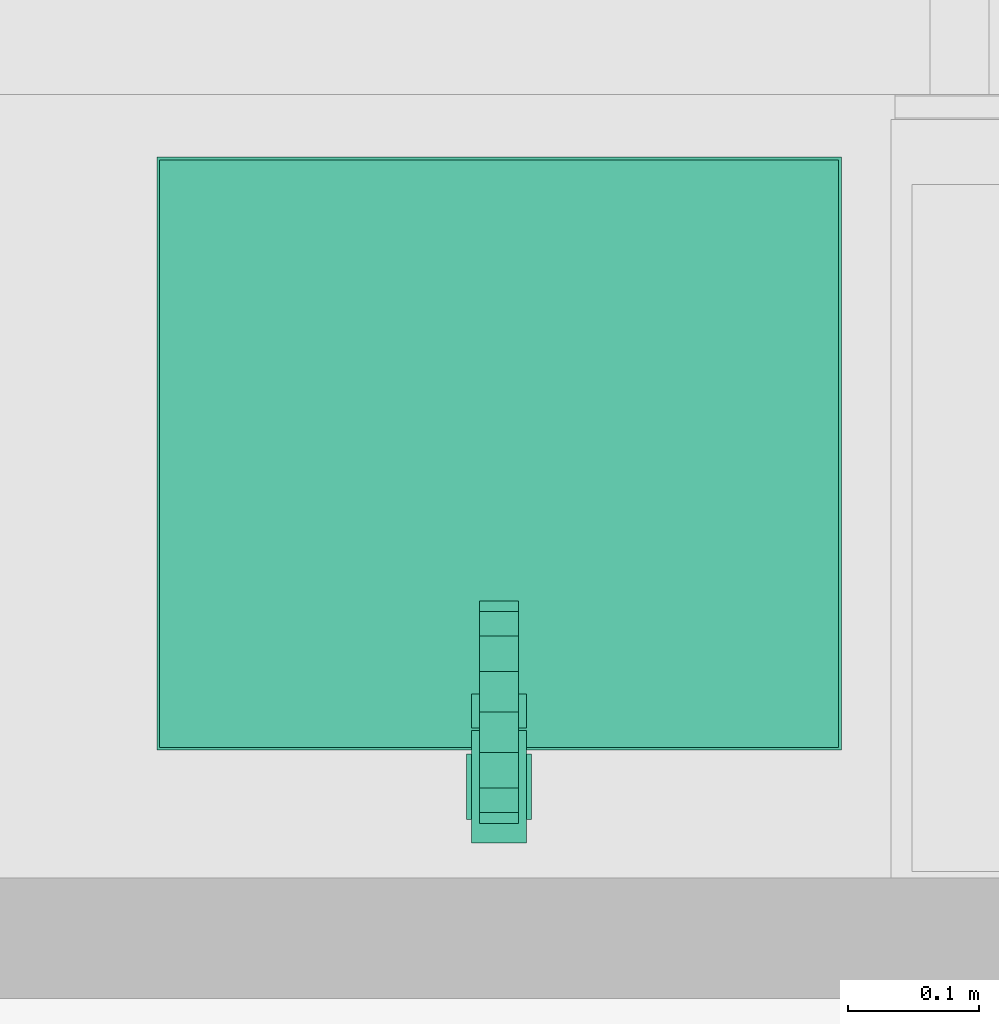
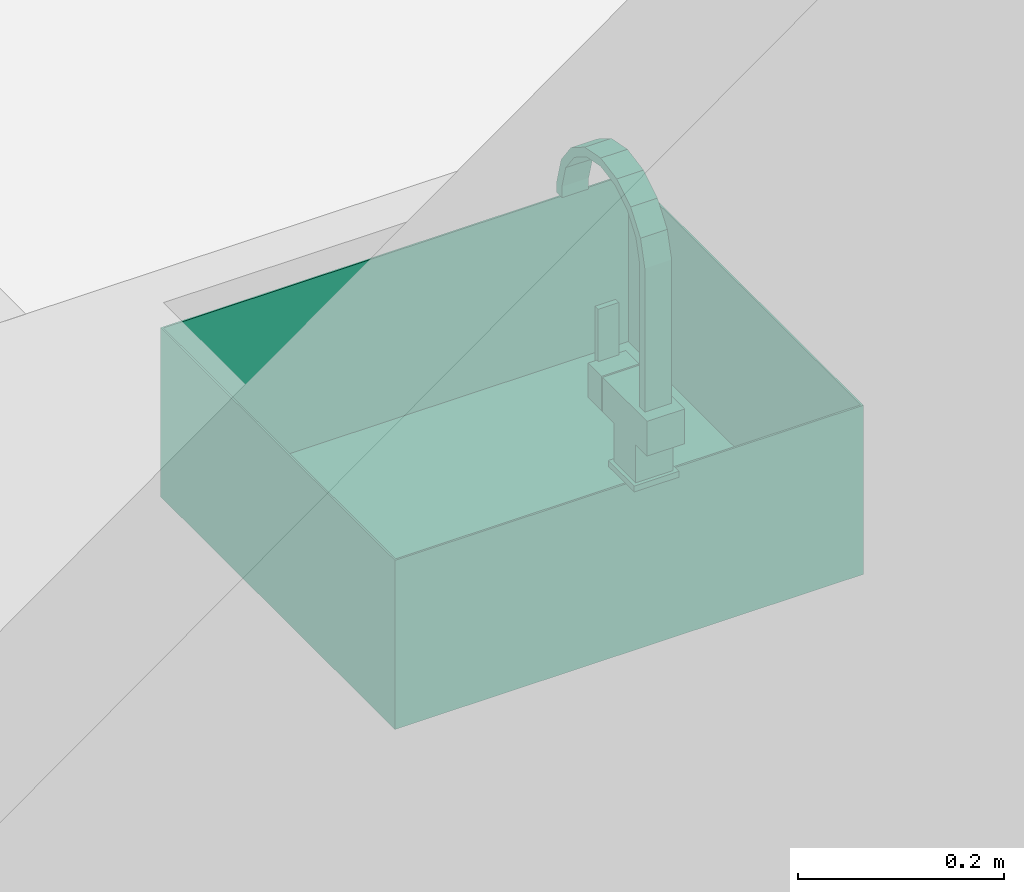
# One storey, part 29 of 57: 2 flow terminals.
"""IFC2X3 building model written with IfcOpenShell, lengths in millimetres."""

from ifc_helpers import new_model, entity, si_unit, converted_unit, direction, frame, origin, place, context, subcontext, project, spatial, faceted_brep, source, transform, mapped, material, type_object, type_shapes, element, save


model = new_model("IFC2X3")

# Units and contexts
model_context = context("Model", 3, precision=0.01, world=origin(), true_north=direction((6.123233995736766e-17, 1.0)))
plan_context = context("Plan", 3, precision=0.01, world=origin(), true_north=direction((6.123233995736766e-17, 1.0)))
body_context = subcontext(model_context, "Body", "Model", "MODEL_VIEW")
ifc_project = project(units=[si_unit("LENGTHUNIT", "METRE", prefix="MILLI"), converted_unit("PLANEANGLEUNIT", "DEGREE", entity("IfcPlaneAngleMeasure", 0.017453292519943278), si_unit("PLANEANGLEUNIT", "RADIAN"), dimensions=[0, 0, 0, 0, 0, 0, 0]), si_unit("AREAUNIT", "SQUARE_METRE")], contexts=[model_context, plan_context])

# Site, building, storey, space
site_placement = place(None, origin())
site = spatial("IfcSite", under=ifc_project, at=site_placement, Name="Default", CompositionType="ELEMENT")
building_placement = place(site_placement, origin())
building = spatial("IfcBuilding", under=site, at=building_placement, CompositionType="ELEMENT")
storey_placement = place(building_placement, frame((0.0, 0.0, 12811.000000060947)))
storey = spatial("IfcBuildingStorey", under=building, at=storey_placement, Name="5K", CompositionType="ELEMENT", Elevation=12811.000000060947)
space_placement = place(storey_placement, origin())
space = spatial("IfcSpace", under=storey, at=space_placement, Name="5-12.4", CompositionType="ELEMENT", InteriorOrExteriorSpace="INTERNAL")

# Flow terminals
ifc_material = material(Name="<Unnamed>")
distribution_element_type_1 = type_object("IfcDistributionElementType", Name="HR_Plumbing-fixtures_Sink_Generic_Kitchen_v1:Default", material=ifc_material)
shared_shape_1 = source(origin(), body_context, "Body", "Brep", [
    faceted_brep([(260.0, -50.0, -3825.0), (260.0, -500.0, -3825.0), (-260.0, -500.0, -3825.0), (-260.0, -50.0, -3825.0), (262.0, -48.0, -3825.0), (-262.0, -48.0, -3825.0), (-262.0, -502.0, -3825.0), (262.0, -502.0, -3825.0), (262.0, -48.0, -4025.0), (262.0, -502.0, -4025.0), (-262.0, -502.0, -4025.0), (-262.0, -48.0, -4025.0), (260.0, -50.0, -4023.0), (260.0, -500.0, -4023.0), (-260.0, -500.0, -4023.0), (-260.0, -50.0, -4023.0)], [[[0, 1, 2, 3], [4, 5, 6, 7]], [[8, 9, 10, 11]], [[1, 0, 12, 13]], [[2, 1, 13, 14]], [[3, 2, 14, 15]], [[0, 3, 15, 12]], [[5, 4, 8, 11]], [[6, 5, 11, 10]], [[7, 6, 10, 9]], [[4, 7, 9, 8]], [[13, 12, 15, 14]]], outer=[[False, True], [True], [True], [True], [True], [True], [True], [True], [True], [True], [True]]),
])
type_shapes(distribution_element_type_1, [shared_shape_1])
flow_terminal_1_placement = place(space_placement, frame((9435.0, 9810.0, 4695.0)))
element("IfcFlowTerminal", 1, at=flow_terminal_1_placement, inside=space, type_object=distribution_element_type_1, material=ifc_material, Name="HR_Plumbing-fixtures_Sink_Generic_Kitchen_v1:Default", ObjectType="HR_Plumbing-fixtures_Sink_Generic_Kitchen_v1:Default", context=body_context, shape_type="MappedRepresentation", body=[
    mapped(shared_shape_1, transform((0.0, 0.0, 0.0), scale=1.0)),
])
distribution_element_type_2 = type_object("IfcDistributionElementType", Name="HR_Plumbing-fixtures_Faucet_Generic_v1:Default", material=ifc_material)
shared_shape_2 = source(origin(), body_context, "Body", "Brep", [
    faceted_brep([(-21.0, 45.0, 93.0), (21.0, 45.0, 93.0), (21.0, 71.0, 93.0), (11.500000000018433, 71.0, 93.0), (11.50000000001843, 68.0, 93.0), (-11.49999999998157, 68.0, 93.0), (-11.499999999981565, 71.0, 93.0), (-21.0, 71.0, 93.0), (-21.0, 45.0, 52.0), (-21.0, 71.0, 52.0), (-11.499999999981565, 71.0, 52.0), (-11.49999999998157, 68.0, 52.0), (11.50000000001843, 68.0, 52.0), (11.500000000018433, 71.0, 52.0), (21.0, 71.0, 52.0), (21.0, 45.0, 52.0), (-11.499999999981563, 74.0, 155.0), (-11.499999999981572, 68.0, 155.0), (11.500000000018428, 68.0, 155.0), (11.500000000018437, 74.0, 155.0), (-11.499999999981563, 74.0, 47.0), (11.500000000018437, 74.0, 47.0), (11.500000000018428, 68.0, 47.0), (-11.499999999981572, 68.0, 47.0)], [[[0, 1, 2, 3, 4, 5, 6, 7]], [[8, 9, 10, 11, 12, 13, 14, 15]], [[1, 0, 8, 15]], [[2, 1, 15, 14]], [[2, 14, 13, 3]], [[0, 7, 9, 8]], [[16, 17, 18, 19]], [[20, 21, 22, 23]], [[17, 16, 20, 23, 11, 10, 6, 5]], [[18, 17, 5, 4]], [[19, 18, 4, 3, 13, 12, 22, 21]], [[16, 19, 21, 20]], [[23, 22, 12, 11]], [[9, 7, 6, 10]]]),
    faceted_brep([(15.0, -28.2999999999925, 93.0), (-15.0, -28.299999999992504, 93.0), (-15.0, -18.299999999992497, 93.0), (15.0, -18.299999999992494, 93.0), (15.0, -28.299999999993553, 262.91444034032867), (-15.0, -28.29999999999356, 262.9144403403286), (-15.0, -18.29999999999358, 262.49427421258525), (15.0, -18.299999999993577, 262.49427421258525), (15.0, -24.100059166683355, 278.21407775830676), (15.0, -19.900118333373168, 293.51371517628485), (-15.0, -19.900118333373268, 293.5137151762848), (-15.0, -24.100059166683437, 278.2140777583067), (-15.0, -0.9291565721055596, 318.9494428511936), (-15.0, -10.414637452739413, 306.2315790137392), (15.0, -10.414637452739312, 306.23157901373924), (15.0, -0.9291565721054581, 318.9494428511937), (15.0, 142.33160759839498, 262.51576689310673), (-15.0, 142.33160759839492, 262.51576689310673), (-15.0, 138.20320612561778, 277.83486312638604), (-15.0, 134.07480465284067, 293.15395935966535), (15.0, 134.07480465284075, 293.15395935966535), (15.0, 138.20320612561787, 277.83486312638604), (-15.0, 26.005040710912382, 335.7250992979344), (-15.0, 12.537942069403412, 327.337271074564), (15.0, 12.537942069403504, 327.337271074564), (15.0, 26.005040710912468, 335.7250992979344), (-15.0, 57.19996222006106, 341.5346177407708), (-15.0, 41.60250146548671, 338.6298585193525), (15.0, 41.60250146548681, 338.62985851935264), (15.0, 57.19996222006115, 341.5346177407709), (-15.0, 88.36739590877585, 335.5793923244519), (-15.0, 72.78367906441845, 338.55700503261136), (15.0, 72.78367906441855, 338.55700503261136), (15.0, 88.36739590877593, 335.5793923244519), (-15.0, 124.64885649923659, 305.9160089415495), (-15.0, 115.22290834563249, 318.67805852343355), (15.0, 115.22290834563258, 318.67805852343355), (15.0, 124.64885649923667, 305.9160089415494), (-15.0, 101.79515212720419, 327.1287254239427), (15.0, 101.79515212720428, 327.1287254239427), (-15.0, 142.3316075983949, 249.0), (-15.0, 132.33160759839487, 249.0), (-15.0, 132.3316075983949, 262.11973222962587), (-15.0, 128.64003790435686, 275.58767371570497), (-15.0, 124.94846821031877, 289.05561520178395), (-15.0, 116.61798076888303, 300.2634746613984), (-15.0, 108.28749332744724, 311.4713341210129), (-15.0, 96.45555148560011, 318.88876541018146), (-15.0, 84.623609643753, 326.30619669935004), (-15.0, 70.90577314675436, 328.9204071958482), (-15.0, 57.187936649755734, 331.53461769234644), (-15.0, 43.457269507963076, 328.98865726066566), (-15.0, 29.726602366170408, 326.4426968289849), (-15.0, 17.85792051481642, 319.08419658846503), (-15.0, 5.989238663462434, 311.72569634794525), (-15.0, -2.3968815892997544, 300.55940234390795), (-15.0, -10.783001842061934, 289.3931083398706), (-15.0, -14.541500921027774, 275.9436912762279), (15.0, -10.783001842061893, 289.3931083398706), (15.0, -14.541500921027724, 275.9436912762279), (15.0, 5.989238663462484, 311.7256963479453), (15.0, -2.396881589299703, 300.55940234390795), (15.0, 116.61798076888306, 300.2634746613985), (15.0, 108.28749332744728, 311.47133412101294), (15.0, 124.94846821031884, 289.05561520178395), (15.0, 29.726602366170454, 326.4426968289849), (15.0, 17.857920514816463, 319.08419658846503), (15.0, 57.187936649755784, 331.53461769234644), (15.0, 43.45726950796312, 328.98865726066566), (15.0, 84.62360964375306, 326.30619669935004), (15.0, 70.90577314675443, 328.9204071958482), (15.0, 127.94606568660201, 278.11949025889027), (15.0, 132.33160759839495, 262.11973222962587), (15.0, 96.45555148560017, 318.88876541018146), (15.0, 132.33160759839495, 249.0), (15.0, 142.33160759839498, 249.0)], [[[0, 1, 2, 3]], [[1, 0, 4, 5]], [[3, 2, 6, 7]], [[4, 8, 9, 10, 11, 5]], [[12, 13, 10, 9, 14, 15]], [[16, 17, 18, 19, 20, 21]], [[22, 23, 12, 15, 24, 25]], [[26, 27, 22, 25, 28, 29]], [[30, 31, 26, 29, 32, 33]], [[34, 35, 36, 37, 20, 19]], [[35, 38, 30, 33, 39, 36]], [[17, 40, 41, 42, 43, 44, 45, 46, 47, 48, 49, 50, 51, 52, 53, 54, 55, 56, 57, 6, 2, 1, 5, 11, 10, 13, 12, 23, 22, 27, 26, 31, 30, 38, 35, 34, 19, 18]], [[6, 57, 56, 58, 59, 7]], [[60, 61, 58, 56, 55, 54]], [[62, 63, 46, 45, 44, 64]], [[65, 66, 60, 54, 53, 52]], [[65, 52, 51, 50, 67, 68]], [[69, 70, 67, 50, 49, 48]], [[71, 64, 44, 43, 42, 72]], [[47, 46, 63, 73, 69, 48]], [[72, 74, 75, 16, 21, 20, 37, 36, 39, 33, 32, 29, 28, 25, 24, 15, 14, 9, 8, 4, 0, 3, 7, 59, 58, 61, 60, 66, 65, 68, 67, 70, 69, 73, 63, 62, 64, 71]], [[41, 40, 75, 74]], [[17, 16, 75, 40]], [[72, 42, 41, 74]]]),
    faceted_brep([(-21.0, -43.0, 93.0), (21.0, -43.0, 93.0), (21.0, 43.0, 93.0), (-21.0, 43.0, 93.0), (-21.0, -43.0, 52.0), (-21.0, 43.0, 52.0), (21.0, 43.0, 52.0), (21.0, -43.0, 52.0)], [[[0, 1, 2, 3]], [[4, 5, 6, 7]], [[1, 0, 4, 7]], [[2, 1, 7, 6]], [[3, 2, 6, 5]], [[0, 3, 5, 4]]]),
    faceted_brep([(21.0, -21.0, 52.0), (21.0, 21.0, 52.0), (-21.0, 21.0, 52.0), (-21.0, -21.0, 52.0), (21.0, -21.0, 7.0), (-21.0, -21.0, 7.0), (-21.0, 21.0, 7.0), (21.0, 21.0, 7.0)], [[[0, 1, 2, 3]], [[4, 5, 6, 7]], [[1, 0, 4, 7]], [[2, 1, 7, 6]], [[3, 2, 6, 5]], [[0, 3, 5, 4]]]),
    faceted_brep([(-25.0, 25.0, 7.0), (-25.0, -25.0, 7.0), (25.0, -25.0, 7.0), (25.0, 25.0, 7.0), (-25.0, 25.0, 0.0), (25.0, 25.0, 0.0), (25.0, -25.0, 0.0), (-25.0, -25.0, 0.0)], [[[0, 1, 2, 3]], [[4, 5, 6, 7]], [[1, 0, 4, 7]], [[2, 1, 7, 6]], [[3, 2, 6, 5]], [[0, 3, 5, 4]]]),
])
type_shapes(distribution_element_type_2, [shared_shape_2])
flow_terminal_2_placement = place(space_placement, frame((9435.0, 9280.0, 900.0)))
element("IfcFlowTerminal", 2, at=flow_terminal_2_placement, inside=space, type_object=distribution_element_type_2, material=ifc_material, Name="HR_Plumbing-fixtures_Faucet_Generic_v1:Default", ObjectType="HR_Plumbing-fixtures_Faucet_Generic_v1:Default", context=body_context, shape_type="MappedRepresentation", body=[
    mapped(shared_shape_2, transform((0.0, 0.0, 0.0), scale=1.0)),
])

save(model, "model.ifc")
